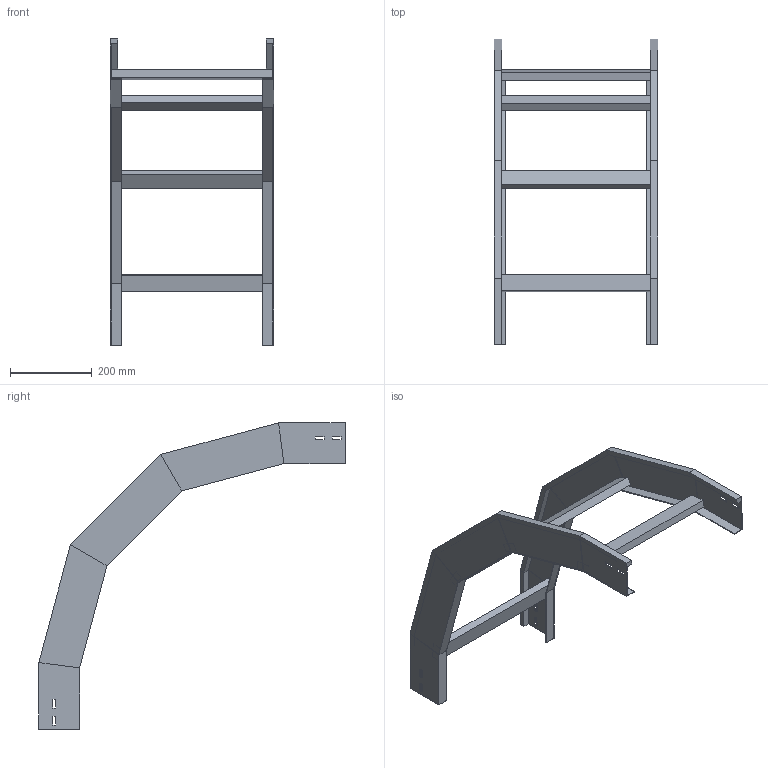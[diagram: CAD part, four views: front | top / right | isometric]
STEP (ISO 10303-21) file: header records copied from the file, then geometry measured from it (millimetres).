
FILE_DESCRIPTION (( 'STEP AP214' ), '1' );
FILE_NAME ('33B5D400.step', '2025-02-21T15:01:08', ( '' ), ( '' ), 'SwSTEP 2.0', 'SolidWorks 2023', '' );
FILE_SCHEMA (( 'AUTOMOTIVE_DESIGN' ));
Length unit declared in the file: millimetre
Products named in the file (3): LONGH.DISCESA_90°_H100_R500; 33B5D400; TRAVERSINO_400
Assembly tree (6 placements, depth 2):
  33B5D400
    LONGH.DISCESA_90°_H100_R500  x2
    TRAVERSINO_400  x4
Bounding box: 400 x 750.35 x 750.35 mm (x, y, z)
Volume: 2322468.1 mm3; surface area: 856803.4 mm2
Topology: 6 solids, 6 shells, 140 faces, 320 edges, 192 vertices
Faces by surface type: plane 140
Entity records: 1872 total; most frequent: CARTESIAN_POINT 309, ORIENTED_EDGE 296, DIRECTION 294, LINE 148, VECTOR 148, EDGE_CURVE 148, VERTEX_POINT 88, AXIS2_PLACEMENT_3D 73
